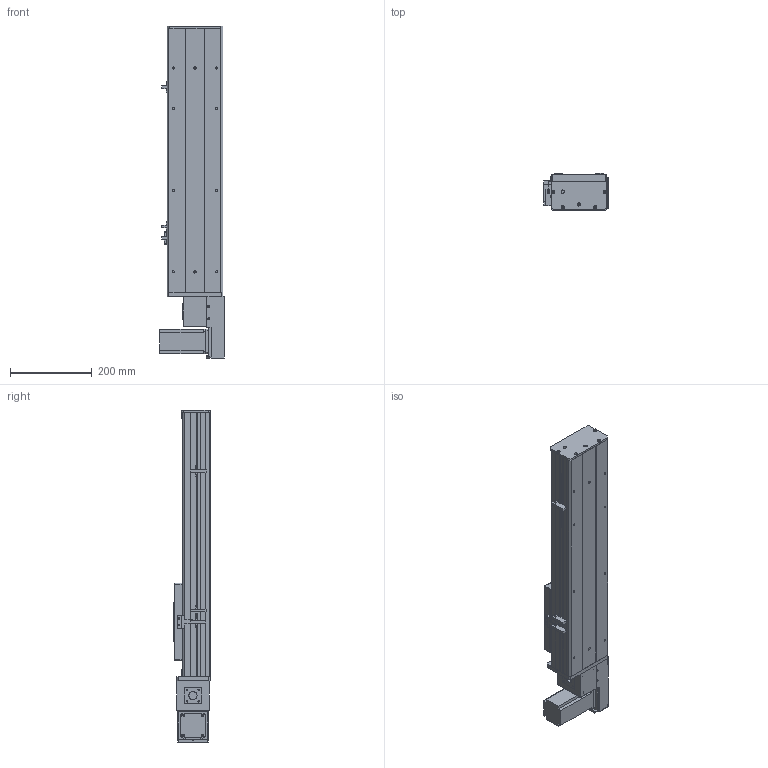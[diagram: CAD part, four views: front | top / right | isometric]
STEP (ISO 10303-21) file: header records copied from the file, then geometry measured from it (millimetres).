
FILE_DESCRIPTION (( 'STEP AP203' ), '1' );
FILE_NAME ('Y135CB-D90-S350-BL-P400W.STEP', '2020-02-17T08:23:32', ( '微软用户' ), ( '微软中国' ), 'SwSTEP 2.0', 'SolidWorks 2017', '' );
FILE_SCHEMA (( 'CONFIG_CONTROL_DESIGN' ));
Length unit declared in the file: millimetre
Products named in the file (18): Y135C-陔俋离換覜結え-; 0B-埴倛裔啣; 5C--俋欶; 0B-源倛裔啣; C-雄赽釱--; 0B-萇儂楊擘啣; Y135CB-耜裔; Y135CB-D90-S350-BL-P400W; san松下电机400不带刹车----; 135CB---遴掛极.-; 5CB --掛极耜裔啣-; 35CB---喘謫眊楊擘啣; C-詩湍揤踡え-陔; Y10B--々湍喘謫眊--666; 135CB--詩湍-CE; Y10B-耜蚾蟀諉啣----; Y100-135俋离換覜ん--; Y俋欶BR----
Assembly tree (21 placements, depth 2):
  Y135CB-D90-S350-BL-P400W
    Y135CB-耜裔
    135CB---遴掛极.-
    35CB---喘謫眊楊擘啣
    Y10B--々湍喘謫眊--666
    Y10B-耜蚾蟀諉啣----
    Y俋欶BR----
    0B-埴倛裔啣
    0B-源倛裔啣
    0B-萇儂楊擘啣
    san松下电机400不带刹车----
    5CB --掛极耜裔啣-  x2
    C-詩湍揤踡え-陔  x2
    135CB--詩湍-CE
    Y100-135俋离換覜ん--  x3
    Y135C-陔俋离換覜結え-
    5C--俋欶
    C-雄赽釱--
Bounding box: 157.5 x 91 x 814.5 mm (x, y, z)
Volume: 2698958.5 mm3; surface area: 1040183.2 mm2
Topology: 21 solids, 21 shells, 951 faces, 2509 edges, 1662 vertices
Faces by surface type: cylinder 471, plane 464, cone 16
Entity records: 29215 total; most frequent: DIRECTION 4865, CARTESIAN_POINT 4758, ORIENTED_EDGE 4494, EDGE_CURVE 2247, AXIS2_PLACEMENT_3D 1773, VERTEX_POINT 1490, LINE 1319, VECTOR 1319
